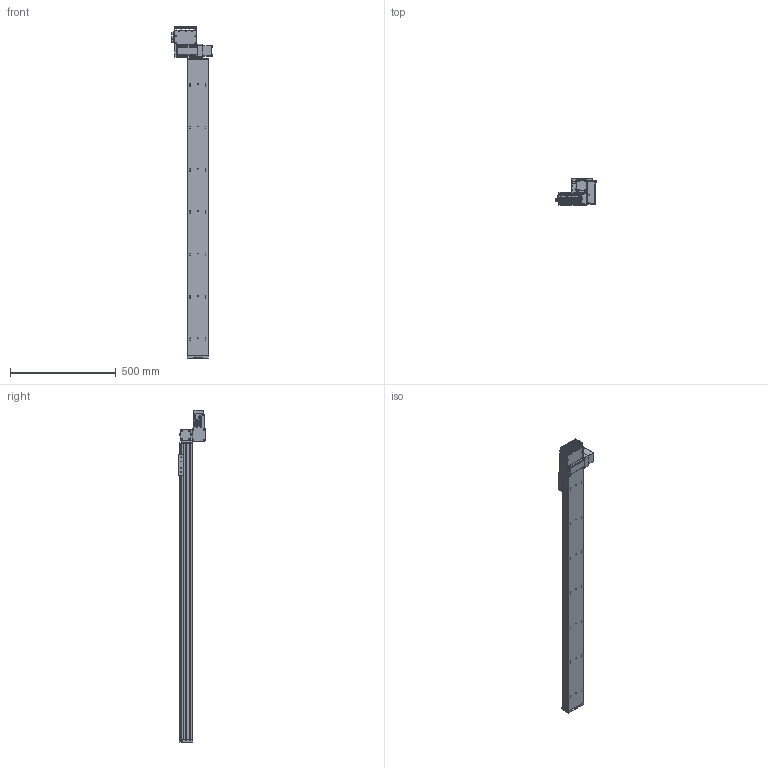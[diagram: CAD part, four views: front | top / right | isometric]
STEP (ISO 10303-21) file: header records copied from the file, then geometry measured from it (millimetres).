
FILE_DESCRIPTION (( 'STEP AP203' ), '1' );
FILE_NAME ('S10 TBH LH S1400.STEP', '2012-06-18T15:26:34', ( 'Conseil Régional Haute-Normandie' ), ( 'Conseil Régional Haute-Normandie' ), 'SwSTEP 2.0', 'SolidWorks 2010', '' );
FILE_SCHEMA (( 'CONFIG_CONTROL_DESIGN' ));
Length unit declared in the file: millimetre
Products named in the file (31): embout; Cvis M5 L30_Default; Vis M5 L16-2_Default_1; vis M5 L5_Default; vis M5 L12_Default; Colonnette_3; BU45 Carte d''axe A11_5; Moteur 60BLDC90A_3; Radiateur profil_X2_00E9_X0_ 100x25_3; Sub D 9cts 90_X2_00B_X0__3; axe 1400; axe1400; S10 TBH LH S1400; cache t皻e axe_Default; cache t皻e_Default; palette tbn; plaque de bout s10_Default; Plaque racord_Default; renvoi LH_Default; Vis TF 3 torkx; Assem1_7; T_X2_00F4_X0_le contre le moteur_5; BU41 Carte Alimentation P05_3; Couvercle_3; T_X2_00F4_X0_le fond_3; Connecteur rond D10 3cts_5; Connecteur rond D12 4cts_5; Colonnette ronde_3; T_X2_00F4_X0_le Arri_X2_00E8_X0_re_5; T_X2_00F4_X0_le lat_X2_00E9_X0_rale_5; Vis TF 3 torkx_1_1
Assembly tree (70 placements, depth 3):
  S10 TBH LH S1400
    renvoi LH_Default
    Cvis M5 L30_Default  x2
    Vis M5 L16-2_Default_1  x4
    palette tbn
    axe1400
      axe 1400
    plaque de bout s10_Default
    vis M5 L12_Default  x4
    vis M5 L5_Default  x4
    cache t皻e axe_Default
    cache t皻e_Default  x2
    Vis TF 3 torkx  x7
    Plaque racord_Default
    embout
    Assem1_7
      Colonnette ronde_3
      T_X2_00F4_X0_le lat_X2_00E9_X0_rale_5  x2
      Vis TF 3 torkx_1_1  x21
      Connecteur rond D10 3cts_5  x2
      BU41 Carte Alimentation P05_3
      Colonnette_3  x2
      T_X2_00F4_X0_le fond_3
      BU45 Carte d''axe A11_5
      Connecteur rond D12 4cts_5
      Sub D 9cts 90_X2_00B_X0__3
      T_X2_00F4_X0_le contre le moteur_5
      Moteur 60BLDC90A_3
      Radiateur profil_X2_00E9_X0_ 100x25_3
      T_X2_00F4_X0_le Arri_X2_00E8_X0_re_5
      Couvercle_3
Bounding box: 189.8 x 124.75 x 1566.5 mm (x, y, z)
Volume: 8137687.9 mm3; surface area: 992058.7 mm2
Topology: 68 solids, 68 shells, 2511 faces, 6235 edges, 4023 vertices
Faces by surface type: plane 1211, cylinder 1061, cone 196, bspline 40, torus 3
Entity records: 49204 total; most frequent: CARTESIAN_POINT 8808, DIRECTION 7902, ORIENTED_EDGE 7174, EDGE_CURVE 3587, AXIS2_PLACEMENT_3D 2928, VERTEX_POINT 2339, LINE 2046, VECTOR 2046
